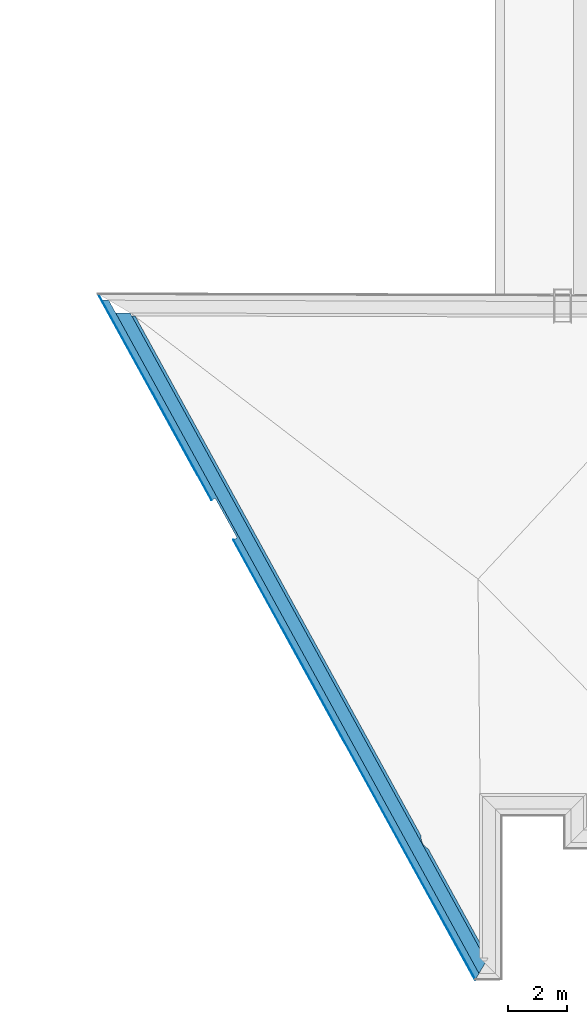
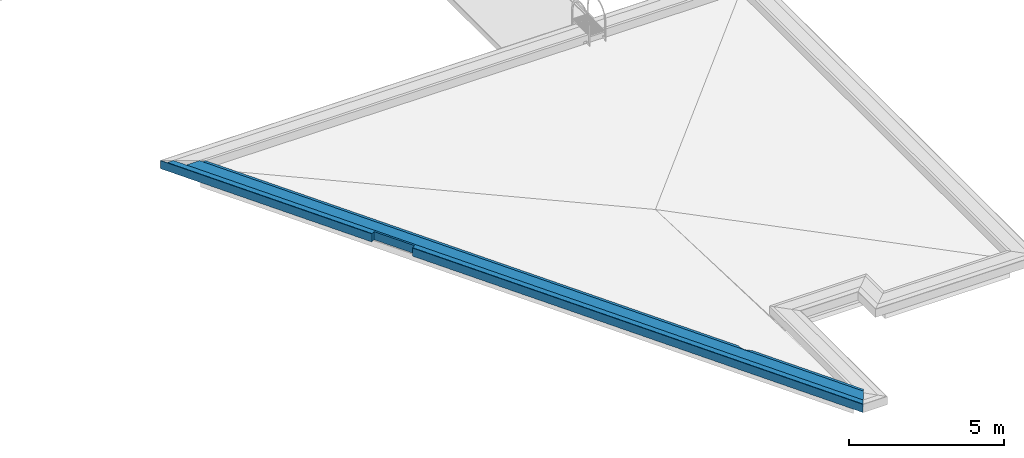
# One storey, part 20 of 47: 4 building element parts, 1 element without a shape of its own.
"""IFC2X3 building model written with IfcOpenShell, lengths in millimetres."""

from ifc_helpers import new_model, entity, si_unit, converted_unit, derived_unit, money_unit, direction, frame, origin_with_axes, place, context, subcontext, project, spatial, polyline, outline, extrude, boolean, faceted_brep, material, type_object, element, aggregate, save


model = new_model("IFC2X3")

# Units and contexts
model_context = context("Model", 3, precision=1e-05, world=origin_with_axes(), true_north=direction((0.0, 1.0)))
body_context = subcontext(model_context, "Body", "Model", "MODEL_VIEW")
ifc_project = project(units=[si_unit("LENGTHUNIT", "METRE", prefix="MILLI"), si_unit("AREAUNIT", "SQUARE_METRE"), si_unit("VOLUMEUNIT", "CUBIC_METRE"), converted_unit("PLANEANGLEUNIT", "DEGREE", entity("IfcPlaneAngleMeasure", 0.0174532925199), si_unit("PLANEANGLEUNIT", "RADIAN"), dimensions=[0, 0, 0, 0, 0, 0, 0]), si_unit("SOLIDANGLEUNIT", "STERADIAN"), money_unit("EUR"), converted_unit("TIMEUNIT", "Year", entity("IfcTimeMeasure", 31556926.0), si_unit("TIMEUNIT", "SECOND"), dimensions=[0, 0, 1, 0, 0, 0, 0]), si_unit("MASSUNIT", "GRAM", prefix="KILO"), si_unit("THERMODYNAMICTEMPERATUREUNIT", "DEGREE_CELSIUS"), si_unit("LUMINOUSINTENSITYUNIT", "LUMEN"), si_unit("ENERGYUNIT", "JOULE", prefix="MEGA"), derived_unit("THERMALCONDUCTANCEUNIT", [(si_unit("POWERUNIT", "WATT"), 1), (si_unit("LENGTHUNIT", "METRE"), -1), (si_unit("THERMODYNAMICTEMPERATUREUNIT", "KELVIN"), -1)]), derived_unit("SPECIFICHEATCAPACITYUNIT", [(si_unit("ENERGYUNIT", "JOULE"), 1), (si_unit("MASSUNIT", "GRAM", prefix="KILO"), -1), (si_unit("THERMODYNAMICTEMPERATUREUNIT", "KELVIN"), -1)]), derived_unit("MASSDENSITYUNIT", [(si_unit("MASSUNIT", "GRAM", prefix="KILO"), 1), (si_unit("VOLUMEUNIT", "CUBIC_METRE"), -1)])], contexts=[model_context])

# Site, building, storey
site_placement = place(None, origin_with_axes())
site = spatial("IfcSite", under=ifc_project, at=site_placement, Name="Site", CompositionType="ELEMENT")
building_placement = place(site_placement, origin_with_axes())
building = spatial("IfcBuilding", under=site, at=building_placement, Name="Building", CompositionType="ELEMENT")
storey_placement = place(building_placement, frame((0.0, 0.0, 6000.0), z_axis=(0.0, 0.0, 1.0), x_axis=(1.0, 0.0, 0.0)))
storey = spatial("IfcBuildingStorey", under=building, at=storey_placement, Name="KATUSEPLAAN", CompositionType="ELEMENT", Elevation=6000.0)

# Wall, building element parts
wall_type = type_object("IfcWallType", Name="VS-4 parapett", PredefinedType="NOTDEFINED")
wall_placement = place(storey_placement, frame((36615.2626598, -55.9065373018, 980.0), z_axis=(0.0, 0.0, 1.0), x_axis=(-0.481920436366, 0.876214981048, 0.0)))
wall = element("IfcWall", 1, at=wall_placement, inside=storey, type_object=wall_type, Name="VS4 parapett")
ifc_material_1 = material(Name="Soojustus - Plastik Kõva")
building_element_part_1_placement = place(wall_placement, origin_with_axes())
solid_1 = boolean("DIFFERENCE", boolean("DIFFERENCE", boolean("DIFFERENCE", boolean("DIFFERENCE", boolean("DIFFERENCE", boolean("DIFFERENCE", boolean("DIFFERENCE", boolean("DIFFERENCE", extrude(outline(polyline([(-542.581263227, -530.0), (26467.3239255, -530.0), (26467.3239255, -430.0), (-542.581263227, -430.0), (-542.581263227, -530.0)])), origin_with_axes(), (0.0, 0.0, 1.0), 320.0), faceted_brep([(25250.2114654, -430.000000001, 320.0), (25194.8500245, -530.0, 320.0), (26467.3239255, -530.0, 320.0), (26467.3239255, -430.000000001, 320.0), (25194.8500245, -530.0, 0.0), (25250.2114654, -430.000000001, 0.0), (26467.3239255, -530.0, 0.0), (26467.3239255, -430.000000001, 0.0)], [[[0, 1, 2, 3]], [[4, 1, 0, 5]], [[1, 4, 6, 2]], [[2, 6, 7, 3]], [[5, 0, 3, 7]], [[4, 5, 7, 6]]])), faceted_brep([(4608.40667586, -492.275538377, 320.0), (4555.00495107, -520.002609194, 320.0), (4540.69484634, -530.0, 320.0), (5045.51101196, -530.0, 320.0), (5014.9058905, -510.456620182, 320.0), (4960.39961596, -484.969354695, 320.0), (4903.03289443, -466.814632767, 320.0), (4843.78728644, -456.303086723, 320.0), (4783.67650076, -453.614572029, 320.0), (4723.7290496, -458.795089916, 320.0), (4664.97065046, -471.75600029, 320.0), (4608.40667586, -492.275538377, 0.0), (4555.00495107, -520.002609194, 0.0), (4540.69484634, -530.0, 0.0), (5045.51101196, -530.0, 0.0), (5014.9058905, -510.456620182, 0.0), (4960.39961596, -484.969354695, 0.0), (4903.03289443, -466.814632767, 0.0), (4843.78728644, -456.303086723, 0.0), (4783.67650076, -453.614572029, 0.0), (4723.7290496, -458.795089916, 0.0), (4664.97065046, -471.75600029, 0.0)], [[[0, 1, 2, 3, 4, 5, 6, 7, 8, 9, 10]], [[1, 0, 11, 12]], [[13, 2, 1, 12]], [[14, 3, 2, 13]], [[4, 3, 14, 15]], [[5, 4, 15, 16]], [[6, 5, 16, 17]], [[7, 6, 17, 18]], [[8, 7, 18, 19]], [[9, 8, 19, 20]], [[10, 9, 20, 21]], [[0, 10, 21, 11]], [[15, 14, 13, 12, 11, 21, 20, 19, 18, 17, 16]]])), faceted_brep([(313.373058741, -530.0, 0.0), (313.373058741, -530.0, 320.0), (-542.581263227, -530.0, 320.0), (-542.581263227, -530.0, 0.0), (254.246066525, -430.000000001, 320.0), (254.246066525, -430.000000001, 0.0), (-542.581263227, -430.000000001, 320.0), (-542.581263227, -430.000000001, 0.0)], [[[0, 1, 2, 3]], [[4, 1, 0, 5]], [[1, 4, 6, 2]], [[6, 7, 3, 2]], [[5, 0, 3, 7]], [[4, 5, 7, 6]]])), faceted_brep([(25602.5674069, -4.54747350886e-10, 320.0), (25364.5132113, -430.000000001, 320.0), (26467.3239255, -430.000000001, 320.0), (26467.3239255, -4.54747350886e-10, 320.0), (25364.5132113, -430.000000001, 0.0), (25602.5674069, -4.54747350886e-10, 0.0), (26467.3239255, -430.000000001, 0.0), (26467.3239255, -4.54747350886e-10, 0.0)], [[[0, 1, 2, 3]], [[4, 1, 0, 5]], [[1, 4, 6, 2]], [[2, 6, 7, 3]], [[5, 0, 3, 7]], [[4, 5, 7, 6]]])), faceted_brep([(254.246066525, -430.000000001, 0.0), (254.246066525, -430.000000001, 320.0), (-542.581263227, -430.000000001, 320.0), (-542.581263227, -430.000000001, 0.0), (-9.09494701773e-10, -4.54747350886e-10, 320.0), (-9.09494701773e-10, -4.54747350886e-10, 0.0), (-542.581263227, -4.54747350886e-10, 320.0), (-542.581263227, -4.54747350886e-10, 0.0)], [[[0, 1, 2, 3]], [[4, 1, 0, 5]], [[1, 4, 6, 2]], [[6, 7, 3, 2]], [[5, 0, 3, 7]], [[4, 5, 7, 6]]])), faceted_brep([(26204.7877962, 199.999999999, 320.0), (26094.0649146, -4.54747350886e-10, 320.0), (26467.3239255, -4.54747350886e-10, 320.0), (26467.3239255, 199.999999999, 320.0), (26094.0649146, -4.54747350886e-10, 0.0), (26204.7877962, 199.999999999, 0.0), (26467.3239255, -4.54747350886e-10, 0.0), (26467.3239255, 199.999999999, 0.0)], [[[0, 1, 2, 3]], [[4, 1, 0, 5]], [[1, 4, 6, 2]], [[2, 6, 7, 3]], [[5, 0, 3, 7]], [[4, 5, 7, 6]]])), faceted_brep([(18454.4506952, 72.1189451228, 320.0), (18454.2494387, 199.999999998, 320.0), (16924.6867468, 199.999999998, 320.0), (16924.8917916, 69.7117582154, 320.0), (18454.4506952, 72.1189451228, 0.0), (18454.2494387, 199.999999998, 0.0), (16924.6867468, 199.999999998, 0.0), (16924.8917916, 69.7117582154, 0.0)], [[[0, 1, 2, 3]], [[1, 0, 4, 5]], [[6, 2, 1, 5]], [[3, 2, 6, 7]], [[0, 3, 7, 4]], [[7, 6, 5, 4]]])), faceted_brep([(-9.09494701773e-10, -4.54747350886e-10, 0.0), (-9.09494701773e-10, -4.54747350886e-10, 320.0), (-542.581263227, -4.54747350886e-10, 320.0), (-542.581263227, -4.54747350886e-10, 0.0), (-118.25398443, 199.999999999, 320.0), (-118.25398443, 199.999999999, 0.0), (-542.581263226, 199.999999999, 320.0), (-542.581263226, 199.999999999, 0.0)], [[[0, 1, 2, 3]], [[4, 1, 0, 5]], [[1, 4, 6, 2]], [[6, 7, 3, 2]], [[5, 0, 3, 7]], [[4, 5, 7, 6]]]))
building_element_part_1 = element("IfcBuildingElementPart", 2, at=building_element_part_1_placement, material=ifc_material_1, Name="Soojustus - Plastik Kõva", context=body_context, shape_type="CSG", body=[
    boolean("DIFFERENCE", boolean("DIFFERENCE", boolean("DIFFERENCE", solid_1, faceted_brep([(26444.4635763, 219.999999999, 320.0), (26433.3912882, 199.999999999, 320.0), (26467.3239255, 199.999999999, 320.0), (26467.3239255, 219.999999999, 320.0), (26433.3912882, 199.999999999, 0.0), (26444.4635763, 219.999999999, 0.0), (26467.3239255, 199.999999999, 0.0), (26467.3239255, 219.999999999, 0.0)], [[[0, 1, 2, 3]], [[4, 1, 0, 5]], [[1, 4, 6, 2]], [[2, 6, 7, 3]], [[5, 0, 3, 7]], [[4, 5, 7, 6]]])), faceted_brep([(16924.6867468, 199.999999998, 320.0), (16924.6867468, 199.999999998, 0.0), (18454.2494387, 199.999999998, 0.0), (18454.2494387, 199.999999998, 320.0), (16924.6552712, 219.999999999, 320.0), (16924.6552712, 219.999999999, 0.0), (18454.2179632, 219.999999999, 0.0), (18454.2179632, 219.999999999, 320.0)], [[[0, 1, 2, 3]], [[1, 0, 4, 5]], [[1, 5, 6, 2]], [[7, 3, 2, 6]], [[4, 0, 3, 7]], [[5, 4, 7, 6]]])), faceted_brep([(-118.25398443, 199.999999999, 0.0), (-118.25398443, 199.999999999, 320.0), (-542.581263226, 199.999999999, 320.0), (-542.581263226, 199.999999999, 0.0), (-130.079382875, 220.0, 320.0), (-130.079382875, 220.0, 0.0), (-542.581263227, 219.999999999, 320.0), (-542.581263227, 219.999999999, 0.0)], [[[0, 1, 2, 3]], [[4, 1, 0, 5]], [[1, 4, 6, 2]], [[6, 7, 3, 2]], [[5, 0, 3, 7]], [[4, 5, 7, 6]]])),
])
ifc_material_2 = material(Name="Kivi - Ol.Olev Konstruktsioon")
building_element_part_2_placement = place(wall_placement, origin_with_axes())
solid_2 = boolean("DIFFERENCE", boolean("DIFFERENCE", boolean("DIFFERENCE", boolean("DIFFERENCE", boolean("DIFFERENCE", boolean("DIFFERENCE", boolean("DIFFERENCE", boolean("DIFFERENCE", extrude(outline(polyline([(-542.581263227, -430.0), (26467.3239255, -430.0), (26467.3239255, -4.54747350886e-10), (-542.581263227, -4.54747350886e-10), (-542.581263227, -430.0)])), origin_with_axes(), (0.0, 0.0, 1.0), 320.0), faceted_brep([(25250.2114654, -430.000000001, 320.0), (25194.8500245, -530.0, 320.0), (26467.3239255, -530.0, 320.0), (26467.3239255, -430.000000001, 320.0), (25194.8500245, -530.0, 0.0), (25250.2114654, -430.000000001, 0.0), (26467.3239255, -530.0, 0.0), (26467.3239255, -430.000000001, 0.0)], [[[0, 1, 2, 3]], [[4, 1, 0, 5]], [[1, 4, 6, 2]], [[2, 6, 7, 3]], [[5, 0, 3, 7]], [[4, 5, 7, 6]]])), faceted_brep([(4608.40667586, -492.275538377, 320.0), (4555.00495107, -520.002609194, 320.0), (4540.69484634, -530.0, 320.0), (5045.51101196, -530.0, 320.0), (5014.9058905, -510.456620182, 320.0), (4960.39961596, -484.969354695, 320.0), (4903.03289443, -466.814632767, 320.0), (4843.78728644, -456.303086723, 320.0), (4783.67650076, -453.614572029, 320.0), (4723.7290496, -458.795089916, 320.0), (4664.97065046, -471.75600029, 320.0), (4608.40667586, -492.275538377, 0.0), (4555.00495107, -520.002609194, 0.0), (4540.69484634, -530.0, 0.0), (5045.51101196, -530.0, 0.0), (5014.9058905, -510.456620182, 0.0), (4960.39961596, -484.969354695, 0.0), (4903.03289443, -466.814632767, 0.0), (4843.78728644, -456.303086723, 0.0), (4783.67650076, -453.614572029, 0.0), (4723.7290496, -458.795089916, 0.0), (4664.97065046, -471.75600029, 0.0)], [[[0, 1, 2, 3, 4, 5, 6, 7, 8, 9, 10]], [[1, 0, 11, 12]], [[13, 2, 1, 12]], [[14, 3, 2, 13]], [[4, 3, 14, 15]], [[5, 4, 15, 16]], [[6, 5, 16, 17]], [[7, 6, 17, 18]], [[8, 7, 18, 19]], [[9, 8, 19, 20]], [[10, 9, 20, 21]], [[0, 10, 21, 11]], [[15, 14, 13, 12, 11, 21, 20, 19, 18, 17, 16]]])), faceted_brep([(313.373058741, -530.0, 0.0), (313.373058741, -530.0, 320.0), (-542.581263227, -530.0, 320.0), (-542.581263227, -530.0, 0.0), (254.246066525, -430.000000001, 320.0), (254.246066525, -430.000000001, 0.0), (-542.581263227, -430.000000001, 320.0), (-542.581263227, -430.000000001, 0.0)], [[[0, 1, 2, 3]], [[4, 1, 0, 5]], [[1, 4, 6, 2]], [[6, 7, 3, 2]], [[5, 0, 3, 7]], [[4, 5, 7, 6]]])), faceted_brep([(25602.5674069, -4.54747350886e-10, 320.0), (25364.5132113, -430.000000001, 320.0), (26467.3239255, -430.000000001, 320.0), (26467.3239255, -4.54747350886e-10, 320.0), (25364.5132113, -430.000000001, 0.0), (25602.5674069, -4.54747350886e-10, 0.0), (26467.3239255, -430.000000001, 0.0), (26467.3239255, -4.54747350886e-10, 0.0)], [[[0, 1, 2, 3]], [[4, 1, 0, 5]], [[1, 4, 6, 2]], [[2, 6, 7, 3]], [[5, 0, 3, 7]], [[4, 5, 7, 6]]])), faceted_brep([(254.246066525, -430.000000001, 0.0), (254.246066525, -430.000000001, 320.0), (-542.581263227, -430.000000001, 320.0), (-542.581263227, -430.000000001, 0.0), (-9.09494701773e-10, -4.54747350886e-10, 320.0), (-9.09494701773e-10, -4.54747350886e-10, 0.0), (-542.581263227, -4.54747350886e-10, 320.0), (-542.581263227, -4.54747350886e-10, 0.0)], [[[0, 1, 2, 3]], [[4, 1, 0, 5]], [[1, 4, 6, 2]], [[6, 7, 3, 2]], [[5, 0, 3, 7]], [[4, 5, 7, 6]]])), faceted_brep([(26204.7877962, 199.999999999, 320.0), (26094.0649146, -4.54747350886e-10, 320.0), (26467.3239255, -4.54747350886e-10, 320.0), (26467.3239255, 199.999999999, 320.0), (26094.0649146, -4.54747350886e-10, 0.0), (26204.7877962, 199.999999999, 0.0), (26467.3239255, -4.54747350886e-10, 0.0), (26467.3239255, 199.999999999, 0.0)], [[[0, 1, 2, 3]], [[4, 1, 0, 5]], [[1, 4, 6, 2]], [[2, 6, 7, 3]], [[5, 0, 3, 7]], [[4, 5, 7, 6]]])), faceted_brep([(18454.4506952, 72.1189451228, 320.0), (18454.2494387, 199.999999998, 320.0), (16924.6867468, 199.999999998, 320.0), (16924.8917916, 69.7117582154, 320.0), (18454.4506952, 72.1189451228, 0.0), (18454.2494387, 199.999999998, 0.0), (16924.6867468, 199.999999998, 0.0), (16924.8917916, 69.7117582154, 0.0)], [[[0, 1, 2, 3]], [[1, 0, 4, 5]], [[6, 2, 1, 5]], [[3, 2, 6, 7]], [[0, 3, 7, 4]], [[7, 6, 5, 4]]])), faceted_brep([(-9.09494701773e-10, -4.54747350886e-10, 0.0), (-9.09494701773e-10, -4.54747350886e-10, 320.0), (-542.581263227, -4.54747350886e-10, 320.0), (-542.581263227, -4.54747350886e-10, 0.0), (-118.25398443, 199.999999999, 320.0), (-118.25398443, 199.999999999, 0.0), (-542.581263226, 199.999999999, 320.0), (-542.581263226, 199.999999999, 0.0)], [[[0, 1, 2, 3]], [[4, 1, 0, 5]], [[1, 4, 6, 2]], [[6, 7, 3, 2]], [[5, 0, 3, 7]], [[4, 5, 7, 6]]]))
building_element_part_2 = element("IfcBuildingElementPart", 3, at=building_element_part_2_placement, material=ifc_material_2, Name="Kivi - Ol.Olev Konstruktsioon", context=body_context, shape_type="CSG", body=[
    boolean("DIFFERENCE", boolean("DIFFERENCE", boolean("DIFFERENCE", solid_2, faceted_brep([(26444.4635763, 219.999999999, 320.0), (26433.3912882, 199.999999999, 320.0), (26467.3239255, 199.999999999, 320.0), (26467.3239255, 219.999999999, 320.0), (26433.3912882, 199.999999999, 0.0), (26444.4635763, 219.999999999, 0.0), (26467.3239255, 199.999999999, 0.0), (26467.3239255, 219.999999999, 0.0)], [[[0, 1, 2, 3]], [[4, 1, 0, 5]], [[1, 4, 6, 2]], [[2, 6, 7, 3]], [[5, 0, 3, 7]], [[4, 5, 7, 6]]])), faceted_brep([(16924.6867468, 199.999999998, 320.0), (16924.6867468, 199.999999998, 0.0), (18454.2494387, 199.999999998, 0.0), (18454.2494387, 199.999999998, 320.0), (16924.6552712, 219.999999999, 320.0), (16924.6552712, 219.999999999, 0.0), (18454.2179632, 219.999999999, 0.0), (18454.2179632, 219.999999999, 320.0)], [[[0, 1, 2, 3]], [[1, 0, 4, 5]], [[1, 5, 6, 2]], [[7, 3, 2, 6]], [[4, 0, 3, 7]], [[5, 4, 7, 6]]])), faceted_brep([(-118.25398443, 199.999999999, 0.0), (-118.25398443, 199.999999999, 320.0), (-542.581263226, 199.999999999, 320.0), (-542.581263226, 199.999999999, 0.0), (-130.079382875, 220.0, 320.0), (-130.079382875, 220.0, 0.0), (-542.581263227, 219.999999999, 320.0), (-542.581263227, 219.999999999, 0.0)], [[[0, 1, 2, 3]], [[4, 1, 0, 5]], [[1, 4, 6, 2]], [[6, 7, 3, 2]], [[5, 0, 3, 7]], [[4, 5, 7, 6]]])),
])
building_element_part_3_placement = place(wall_placement, origin_with_axes())
solid_3 = boolean("DIFFERENCE", boolean("DIFFERENCE", boolean("DIFFERENCE", boolean("DIFFERENCE", boolean("DIFFERENCE", boolean("DIFFERENCE", boolean("DIFFERENCE", boolean("DIFFERENCE", extrude(outline(polyline([(-542.581263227, -4.54747350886e-10), (26467.3239255, -4.54747350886e-10), (26467.3239255, 199.999999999), (-542.581263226, 199.999999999), (-542.581263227, -4.54747350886e-10)])), origin_with_axes(), (0.0, 0.0, 1.0), 320.0), faceted_brep([(25250.2114654, -430.000000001, 320.0), (25194.8500245, -530.0, 320.0), (26467.3239255, -530.0, 320.0), (26467.3239255, -430.000000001, 320.0), (25194.8500245, -530.0, 0.0), (25250.2114654, -430.000000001, 0.0), (26467.3239255, -530.0, 0.0), (26467.3239255, -430.000000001, 0.0)], [[[0, 1, 2, 3]], [[4, 1, 0, 5]], [[1, 4, 6, 2]], [[2, 6, 7, 3]], [[5, 0, 3, 7]], [[4, 5, 7, 6]]])), faceted_brep([(4608.40667586, -492.275538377, 320.0), (4555.00495107, -520.002609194, 320.0), (4540.69484634, -530.0, 320.0), (5045.51101196, -530.0, 320.0), (5014.9058905, -510.456620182, 320.0), (4960.39961596, -484.969354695, 320.0), (4903.03289443, -466.814632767, 320.0), (4843.78728644, -456.303086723, 320.0), (4783.67650076, -453.614572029, 320.0), (4723.7290496, -458.795089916, 320.0), (4664.97065046, -471.75600029, 320.0), (4608.40667586, -492.275538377, 0.0), (4555.00495107, -520.002609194, 0.0), (4540.69484634, -530.0, 0.0), (5045.51101196, -530.0, 0.0), (5014.9058905, -510.456620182, 0.0), (4960.39961596, -484.969354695, 0.0), (4903.03289443, -466.814632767, 0.0), (4843.78728644, -456.303086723, 0.0), (4783.67650076, -453.614572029, 0.0), (4723.7290496, -458.795089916, 0.0), (4664.97065046, -471.75600029, 0.0)], [[[0, 1, 2, 3, 4, 5, 6, 7, 8, 9, 10]], [[1, 0, 11, 12]], [[13, 2, 1, 12]], [[14, 3, 2, 13]], [[4, 3, 14, 15]], [[5, 4, 15, 16]], [[6, 5, 16, 17]], [[7, 6, 17, 18]], [[8, 7, 18, 19]], [[9, 8, 19, 20]], [[10, 9, 20, 21]], [[0, 10, 21, 11]], [[15, 14, 13, 12, 11, 21, 20, 19, 18, 17, 16]]])), faceted_brep([(313.373058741, -530.0, 0.0), (313.373058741, -530.0, 320.0), (-542.581263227, -530.0, 320.0), (-542.581263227, -530.0, 0.0), (254.246066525, -430.000000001, 320.0), (254.246066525, -430.000000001, 0.0), (-542.581263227, -430.000000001, 320.0), (-542.581263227, -430.000000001, 0.0)], [[[0, 1, 2, 3]], [[4, 1, 0, 5]], [[1, 4, 6, 2]], [[6, 7, 3, 2]], [[5, 0, 3, 7]], [[4, 5, 7, 6]]])), faceted_brep([(25602.5674069, -4.54747350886e-10, 320.0), (25364.5132113, -430.000000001, 320.0), (26467.3239255, -430.000000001, 320.0), (26467.3239255, -4.54747350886e-10, 320.0), (25364.5132113, -430.000000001, 0.0), (25602.5674069, -4.54747350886e-10, 0.0), (26467.3239255, -430.000000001, 0.0), (26467.3239255, -4.54747350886e-10, 0.0)], [[[0, 1, 2, 3]], [[4, 1, 0, 5]], [[1, 4, 6, 2]], [[2, 6, 7, 3]], [[5, 0, 3, 7]], [[4, 5, 7, 6]]])), faceted_brep([(254.246066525, -430.000000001, 0.0), (254.246066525, -430.000000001, 320.0), (-542.581263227, -430.000000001, 320.0), (-542.581263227, -430.000000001, 0.0), (-9.09494701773e-10, -4.54747350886e-10, 320.0), (-9.09494701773e-10, -4.54747350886e-10, 0.0), (-542.581263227, -4.54747350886e-10, 320.0), (-542.581263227, -4.54747350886e-10, 0.0)], [[[0, 1, 2, 3]], [[4, 1, 0, 5]], [[1, 4, 6, 2]], [[6, 7, 3, 2]], [[5, 0, 3, 7]], [[4, 5, 7, 6]]])), faceted_brep([(26204.7877962, 199.999999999, 320.0), (26094.0649146, -4.54747350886e-10, 320.0), (26467.3239255, -4.54747350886e-10, 320.0), (26467.3239255, 199.999999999, 320.0), (26094.0649146, -4.54747350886e-10, 0.0), (26204.7877962, 199.999999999, 0.0), (26467.3239255, -4.54747350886e-10, 0.0), (26467.3239255, 199.999999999, 0.0)], [[[0, 1, 2, 3]], [[4, 1, 0, 5]], [[1, 4, 6, 2]], [[2, 6, 7, 3]], [[5, 0, 3, 7]], [[4, 5, 7, 6]]])), faceted_brep([(18454.4506952, 72.1189451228, 320.0), (18454.2494387, 199.999999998, 320.0), (16924.6867468, 199.999999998, 320.0), (16924.8917916, 69.7117582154, 320.0), (18454.4506952, 72.1189451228, 0.0), (18454.2494387, 199.999999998, 0.0), (16924.6867468, 199.999999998, 0.0), (16924.8917916, 69.7117582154, 0.0)], [[[0, 1, 2, 3]], [[1, 0, 4, 5]], [[6, 2, 1, 5]], [[3, 2, 6, 7]], [[0, 3, 7, 4]], [[7, 6, 5, 4]]])), faceted_brep([(-9.09494701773e-10, -4.54747350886e-10, 0.0), (-9.09494701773e-10, -4.54747350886e-10, 320.0), (-542.581263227, -4.54747350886e-10, 320.0), (-542.581263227, -4.54747350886e-10, 0.0), (-118.25398443, 199.999999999, 320.0), (-118.25398443, 199.999999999, 0.0), (-542.581263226, 199.999999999, 320.0), (-542.581263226, 199.999999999, 0.0)], [[[0, 1, 2, 3]], [[4, 1, 0, 5]], [[1, 4, 6, 2]], [[6, 7, 3, 2]], [[5, 0, 3, 7]], [[4, 5, 7, 6]]]))
building_element_part_3 = element("IfcBuildingElementPart", 4, at=building_element_part_3_placement, material=ifc_material_1, Name="Soojustus - Plastik Kõva", context=body_context, shape_type="CSG", body=[
    boolean("DIFFERENCE", boolean("DIFFERENCE", boolean("DIFFERENCE", solid_3, faceted_brep([(26444.4635763, 219.999999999, 320.0), (26433.3912882, 199.999999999, 320.0), (26467.3239255, 199.999999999, 320.0), (26467.3239255, 219.999999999, 320.0), (26433.3912882, 199.999999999, 0.0), (26444.4635763, 219.999999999, 0.0), (26467.3239255, 199.999999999, 0.0), (26467.3239255, 219.999999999, 0.0)], [[[0, 1, 2, 3]], [[4, 1, 0, 5]], [[1, 4, 6, 2]], [[2, 6, 7, 3]], [[5, 0, 3, 7]], [[4, 5, 7, 6]]])), faceted_brep([(16924.6867468, 199.999999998, 320.0), (16924.6867468, 199.999999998, 0.0), (18454.2494387, 199.999999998, 0.0), (18454.2494387, 199.999999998, 320.0), (16924.6552712, 219.999999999, 320.0), (16924.6552712, 219.999999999, 0.0), (18454.2179632, 219.999999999, 0.0), (18454.2179632, 219.999999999, 320.0)], [[[0, 1, 2, 3]], [[1, 0, 4, 5]], [[1, 5, 6, 2]], [[7, 3, 2, 6]], [[4, 0, 3, 7]], [[5, 4, 7, 6]]])), faceted_brep([(-118.25398443, 199.999999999, 0.0), (-118.25398443, 199.999999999, 320.0), (-542.581263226, 199.999999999, 320.0), (-542.581263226, 199.999999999, 0.0), (-130.079382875, 220.0, 320.0), (-130.079382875, 220.0, 0.0), (-542.581263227, 219.999999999, 320.0), (-542.581263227, 219.999999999, 0.0)], [[[0, 1, 2, 3]], [[4, 1, 0, 5]], [[1, 4, 6, 2]], [[6, 7, 3, 2]], [[5, 0, 3, 7]], [[4, 5, 7, 6]]])),
])
ifc_material_3 = material(Name="Tellis - Viimistlus")
building_element_part_4_placement = place(wall_placement, origin_with_axes())
solid_4 = boolean("DIFFERENCE", boolean("DIFFERENCE", boolean("DIFFERENCE", boolean("DIFFERENCE", boolean("DIFFERENCE", boolean("DIFFERENCE", boolean("DIFFERENCE", boolean("DIFFERENCE", extrude(outline(polyline([(-542.581263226, 199.999999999), (26467.3239255, 199.999999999), (26467.3239255, 219.999999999), (-542.581263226, 219.999999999), (-542.581263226, 199.999999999)])), origin_with_axes(), (0.0, 0.0, 1.0), 320.0), faceted_brep([(25250.2114654, -430.000000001, 320.0), (25194.8500245, -530.0, 320.0), (26467.3239255, -530.0, 320.0), (26467.3239255, -430.000000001, 320.0), (25194.8500245, -530.0, 0.0), (25250.2114654, -430.000000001, 0.0), (26467.3239255, -530.0, 0.0), (26467.3239255, -430.000000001, 0.0)], [[[0, 1, 2, 3]], [[4, 1, 0, 5]], [[1, 4, 6, 2]], [[2, 6, 7, 3]], [[5, 0, 3, 7]], [[4, 5, 7, 6]]])), faceted_brep([(4608.40667586, -492.275538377, 320.0), (4555.00495107, -520.002609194, 320.0), (4540.69484634, -530.0, 320.0), (5045.51101196, -530.0, 320.0), (5014.9058905, -510.456620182, 320.0), (4960.39961596, -484.969354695, 320.0), (4903.03289443, -466.814632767, 320.0), (4843.78728644, -456.303086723, 320.0), (4783.67650076, -453.614572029, 320.0), (4723.7290496, -458.795089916, 320.0), (4664.97065046, -471.75600029, 320.0), (4608.40667586, -492.275538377, 0.0), (4555.00495107, -520.002609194, 0.0), (4540.69484634, -530.0, 0.0), (5045.51101196, -530.0, 0.0), (5014.9058905, -510.456620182, 0.0), (4960.39961596, -484.969354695, 0.0), (4903.03289443, -466.814632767, 0.0), (4843.78728644, -456.303086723, 0.0), (4783.67650076, -453.614572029, 0.0), (4723.7290496, -458.795089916, 0.0), (4664.97065046, -471.75600029, 0.0)], [[[0, 1, 2, 3, 4, 5, 6, 7, 8, 9, 10]], [[1, 0, 11, 12]], [[13, 2, 1, 12]], [[14, 3, 2, 13]], [[4, 3, 14, 15]], [[5, 4, 15, 16]], [[6, 5, 16, 17]], [[7, 6, 17, 18]], [[8, 7, 18, 19]], [[9, 8, 19, 20]], [[10, 9, 20, 21]], [[0, 10, 21, 11]], [[15, 14, 13, 12, 11, 21, 20, 19, 18, 17, 16]]])), faceted_brep([(313.373058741, -530.0, 0.0), (313.373058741, -530.0, 320.0), (-542.581263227, -530.0, 320.0), (-542.581263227, -530.0, 0.0), (254.246066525, -430.000000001, 320.0), (254.246066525, -430.000000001, 0.0), (-542.581263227, -430.000000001, 320.0), (-542.581263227, -430.000000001, 0.0)], [[[0, 1, 2, 3]], [[4, 1, 0, 5]], [[1, 4, 6, 2]], [[6, 7, 3, 2]], [[5, 0, 3, 7]], [[4, 5, 7, 6]]])), faceted_brep([(25602.5674069, -4.54747350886e-10, 320.0), (25364.5132113, -430.000000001, 320.0), (26467.3239255, -430.000000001, 320.0), (26467.3239255, -4.54747350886e-10, 320.0), (25364.5132113, -430.000000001, 0.0), (25602.5674069, -4.54747350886e-10, 0.0), (26467.3239255, -430.000000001, 0.0), (26467.3239255, -4.54747350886e-10, 0.0)], [[[0, 1, 2, 3]], [[4, 1, 0, 5]], [[1, 4, 6, 2]], [[2, 6, 7, 3]], [[5, 0, 3, 7]], [[4, 5, 7, 6]]])), faceted_brep([(254.246066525, -430.000000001, 0.0), (254.246066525, -430.000000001, 320.0), (-542.581263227, -430.000000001, 320.0), (-542.581263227, -430.000000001, 0.0), (-9.09494701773e-10, -4.54747350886e-10, 320.0), (-9.09494701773e-10, -4.54747350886e-10, 0.0), (-542.581263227, -4.54747350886e-10, 320.0), (-542.581263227, -4.54747350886e-10, 0.0)], [[[0, 1, 2, 3]], [[4, 1, 0, 5]], [[1, 4, 6, 2]], [[6, 7, 3, 2]], [[5, 0, 3, 7]], [[4, 5, 7, 6]]])), faceted_brep([(26204.7877962, 199.999999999, 320.0), (26094.0649146, -4.54747350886e-10, 320.0), (26467.3239255, -4.54747350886e-10, 320.0), (26467.3239255, 199.999999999, 320.0), (26094.0649146, -4.54747350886e-10, 0.0), (26204.7877962, 199.999999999, 0.0), (26467.3239255, -4.54747350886e-10, 0.0), (26467.3239255, 199.999999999, 0.0)], [[[0, 1, 2, 3]], [[4, 1, 0, 5]], [[1, 4, 6, 2]], [[2, 6, 7, 3]], [[5, 0, 3, 7]], [[4, 5, 7, 6]]])), faceted_brep([(18454.4506952, 72.1189451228, 320.0), (18454.2494387, 199.999999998, 320.0), (16924.6867468, 199.999999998, 320.0), (16924.8917916, 69.7117582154, 320.0), (18454.4506952, 72.1189451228, 0.0), (18454.2494387, 199.999999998, 0.0), (16924.6867468, 199.999999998, 0.0), (16924.8917916, 69.7117582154, 0.0)], [[[0, 1, 2, 3]], [[1, 0, 4, 5]], [[6, 2, 1, 5]], [[3, 2, 6, 7]], [[0, 3, 7, 4]], [[7, 6, 5, 4]]])), faceted_brep([(-9.09494701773e-10, -4.54747350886e-10, 0.0), (-9.09494701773e-10, -4.54747350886e-10, 320.0), (-542.581263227, -4.54747350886e-10, 320.0), (-542.581263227, -4.54747350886e-10, 0.0), (-118.25398443, 199.999999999, 320.0), (-118.25398443, 199.999999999, 0.0), (-542.581263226, 199.999999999, 320.0), (-542.581263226, 199.999999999, 0.0)], [[[0, 1, 2, 3]], [[4, 1, 0, 5]], [[1, 4, 6, 2]], [[6, 7, 3, 2]], [[5, 0, 3, 7]], [[4, 5, 7, 6]]]))
building_element_part_4 = element("IfcBuildingElementPart", 5, at=building_element_part_4_placement, material=ifc_material_3, Name="Tellis - Viimistlus", context=body_context, shape_type="CSG", body=[
    boolean("DIFFERENCE", boolean("DIFFERENCE", boolean("DIFFERENCE", solid_4, faceted_brep([(26444.4635763, 219.999999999, 320.0), (26433.3912882, 199.999999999, 320.0), (26467.3239255, 199.999999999, 320.0), (26467.3239255, 219.999999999, 320.0), (26433.3912882, 199.999999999, 0.0), (26444.4635763, 219.999999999, 0.0), (26467.3239255, 199.999999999, 0.0), (26467.3239255, 219.999999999, 0.0)], [[[0, 1, 2, 3]], [[4, 1, 0, 5]], [[1, 4, 6, 2]], [[2, 6, 7, 3]], [[5, 0, 3, 7]], [[4, 5, 7, 6]]])), faceted_brep([(16924.6867468, 199.999999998, 320.0), (16924.6867468, 199.999999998, 0.0), (18454.2494387, 199.999999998, 0.0), (18454.2494387, 199.999999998, 320.0), (16924.6552712, 219.999999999, 320.0), (16924.6552712, 219.999999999, 0.0), (18454.2179632, 219.999999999, 0.0), (18454.2179632, 219.999999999, 320.0)], [[[0, 1, 2, 3]], [[1, 0, 4, 5]], [[1, 5, 6, 2]], [[7, 3, 2, 6]], [[4, 0, 3, 7]], [[5, 4, 7, 6]]])), faceted_brep([(-118.25398443, 199.999999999, 0.0), (-118.25398443, 199.999999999, 320.0), (-542.581263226, 199.999999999, 320.0), (-542.581263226, 199.999999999, 0.0), (-130.079382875, 220.0, 320.0), (-130.079382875, 220.0, 0.0), (-542.581263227, 219.999999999, 320.0), (-542.581263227, 219.999999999, 0.0)], [[[0, 1, 2, 3]], [[4, 1, 0, 5]], [[1, 4, 6, 2]], [[6, 7, 3, 2]], [[5, 0, 3, 7]], [[4, 5, 7, 6]]])),
])
aggregate(wall, [building_element_part_1, building_element_part_2, building_element_part_3, building_element_part_4])

save(model, "model.ifc")
